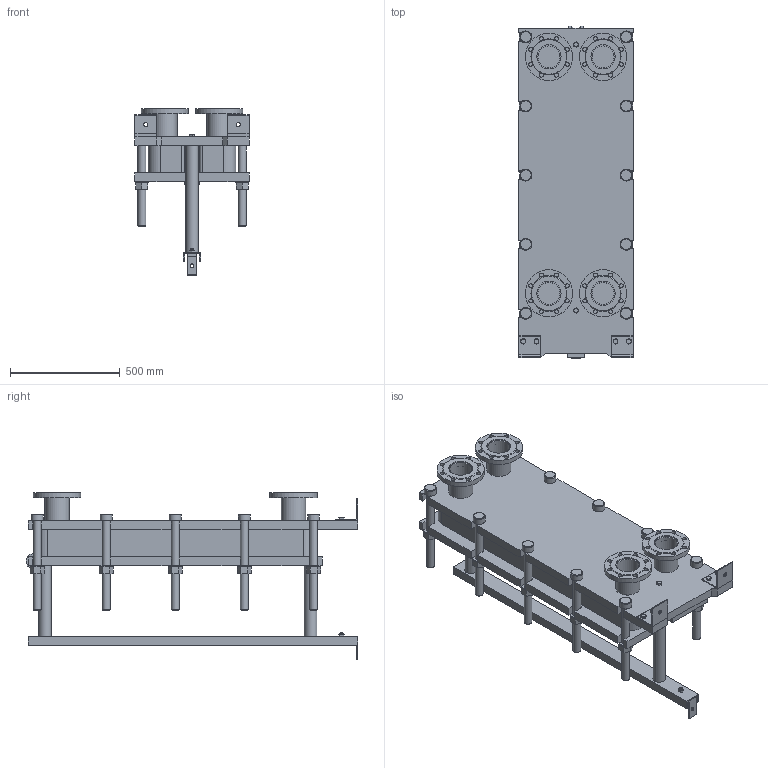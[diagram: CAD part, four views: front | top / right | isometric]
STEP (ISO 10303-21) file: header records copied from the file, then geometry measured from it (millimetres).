
FILE_DESCRIPTION(/* description */ (''),/* implementation_level */ '2;1');
FILE_NAME(/* name */ 'C:\Users\zhuro\Desktop\ENCO\TO\ЭН-04\ЭН-0,5-04-36-1.stp',/* time_stamp */ '2022-06-06T10:47:03+03:00',/* author */ ('zhuro'),/* organization */ (''),/* preprocessor_version */ 'ST-DEVELOPER v18.1',/* originating_system */ 'Autodesk Inventor 2022',/* authorisation */ '');
FILE_SCHEMA (('AUTOMOTIVE_DESIGN { 1 0 10303 214 3 1 1 }'));
Length unit declared in the file: millimetre
Products named in the file (1): ЭН-0,5-04-36-1
Bounding box: 520 x 1510 x 763 mm (x, y, z)
Volume: 129830330.5 mm3; surface area: 6947895.9 mm2
Topology: 45 solids, 45 shells, 668 faces, 1611 edges, 1048 vertices
Faces by surface type: plane 457, cylinder 166, cone 39, torus 6
Full cylindrical faces by diameter (mm): 8 x4, 10 x2, 16 x8, 18 x35, 36 x25, 40 x2, 42 x1, 45 x4, 54 x10, 57 x2, 60 x10, 68 x2, 100 x4, 110 x8, 215 x4
Entity records: 23607 total; most frequent: CARTESIAN_POINT 7348, DIRECTION 3371, ORIENTED_EDGE 3142, EDGE_CURVE 1571, AXIS2_PLACEMENT_3D 1199, VERTEX_POINT 1044, LINE 973, VECTOR 973
